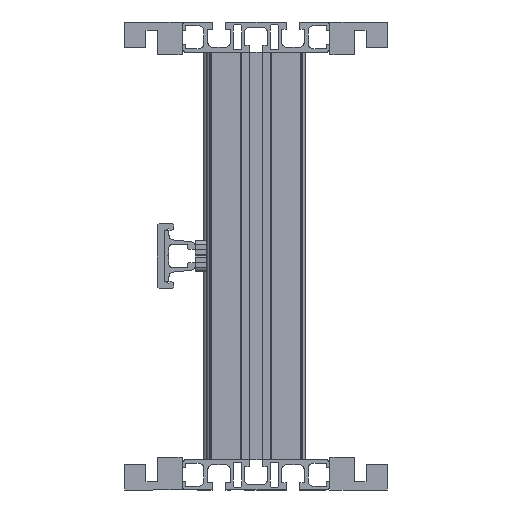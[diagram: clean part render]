
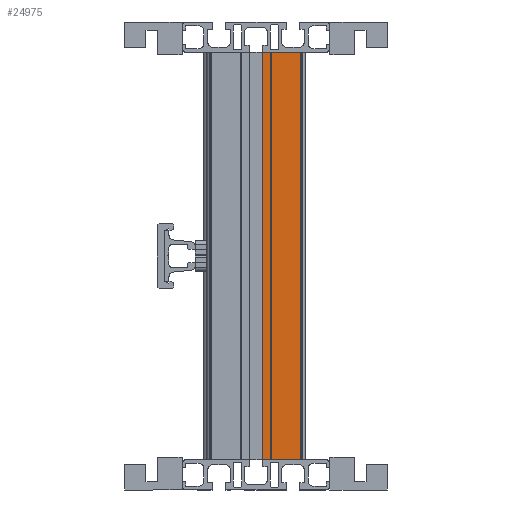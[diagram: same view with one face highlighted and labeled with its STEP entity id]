
A CAD part, left-side view. The second image highlights one B-rep face of the part: STEP entity #24975.
In plain terms, the highlighted planar face has unit normal (-1, 0, 0).
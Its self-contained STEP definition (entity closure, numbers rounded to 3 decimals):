
#1268 = CARTESIAN_POINT ( 'NONE',  ( -420., -49.15, -124. ) ) ;
#1852 = LINE ( 'NONE', #33109, #20698 ) ;
#2203 = ORIENTED_EDGE ( 'NONE', *, *, #34126, .F. ) ;
#2828 = CARTESIAN_POINT ( 'NONE',  ( -420., -72.5, 124. ) ) ;
#2913 = DIRECTION ( 'NONE',  ( 0., 0., 1. ) ) ;
#2929 = EDGE_CURVE ( 'NONE', #23509, #27561, #1852, .T. ) ;
#2971 = ORIENTED_EDGE ( 'NONE', *, *, #26232, .T. ) ;
#3566 = DIRECTION ( 'NONE',  ( 0., 1., 0. ) ) ;
#3871 = VERTEX_POINT ( 'NONE', #22276 ) ;
#6419 = VECTOR ( 'NONE', #3566, 1000. ) ;
#6962 = AXIS2_PLACEMENT_3D ( 'NONE', #7590, #10376, #29089 ) ;
#7059 = EDGE_CURVE ( 'NONE', #3871, #22709, #15689, .T. ) ;
#7423 = ORIENTED_EDGE ( 'NONE', *, *, #2929, .F. ) ;
#7590 = CARTESIAN_POINT ( 'NONE',  ( -420., -72.5, -124. ) ) ;
#8709 = CARTESIAN_POINT ( 'NONE',  ( -420., -72.5, 124. ) ) ;
#9794 = CARTESIAN_POINT ( 'NONE',  ( -420., -49.15, 124. ) ) ;
#10376 = DIRECTION ( 'NONE',  ( 1., 0., 0. ) ) ;
#12099 = DIRECTION ( 'NONE',  ( 0., 1., 0. ) ) ;
#14362 = LINE ( 'NONE', #8709, #6419 ) ;
#15689 = LINE ( 'NONE', #16228, #22845 ) ;
#16228 = CARTESIAN_POINT ( 'NONE',  ( -420., -72.5, -124. ) ) ;
#16787 = VECTOR ( 'NONE', #12099, 1000. ) ;
#17715 = ORIENTED_EDGE ( 'NONE', *, *, #7059, .T. ) ;
#20698 = VECTOR ( 'NONE', #25173, 1000. ) ;
#22276 = CARTESIAN_POINT ( 'NONE',  ( -420., -72.5, -124. ) ) ;
#22709 = VERTEX_POINT ( 'NONE', #2828 ) ;
#22845 = VECTOR ( 'NONE', #2913, 1000. ) ;
#23509 = VERTEX_POINT ( 'NONE', #1268 ) ;
#24975 = ADVANCED_FACE ( 'NONE', ( #32448 ), #26294, .F. ) ;
#25173 = DIRECTION ( 'NONE',  ( 0., 0., 1. ) ) ;
#26232 = EDGE_CURVE ( 'NONE', #22709, #27561, #14362, .T. ) ;
#26294 = PLANE ( 'NONE',  #6962 ) ;
#27561 = VERTEX_POINT ( 'NONE', #9794 ) ;
#29089 = DIRECTION ( 'NONE',  ( 0., 0., -1. ) ) ;
#30613 = EDGE_LOOP ( 'NONE', ( #2971, #7423, #2203, #17715 ) ) ;
#32448 = FACE_OUTER_BOUND ( 'NONE', #30613, .T. ) ;
#33109 = CARTESIAN_POINT ( 'NONE',  ( -420., -49.15, -124. ) ) ;
#33283 = CARTESIAN_POINT ( 'NONE',  ( -420., -72.5, -124. ) ) ;
#33529 = LINE ( 'NONE', #33283, #16787 ) ;
#34126 = EDGE_CURVE ( 'NONE', #3871, #23509, #33529, .T. ) ;
